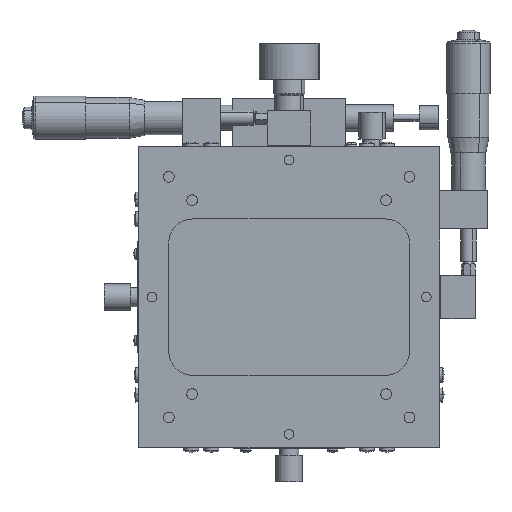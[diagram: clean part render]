
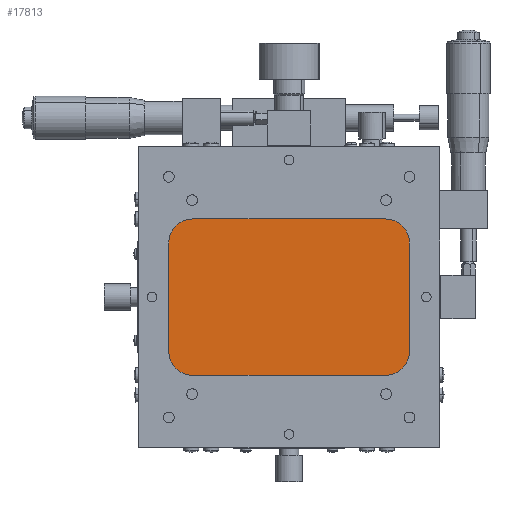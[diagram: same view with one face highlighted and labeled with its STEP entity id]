
A CAD part, front view. The second image highlights one B-rep face of the part: STEP entity #17813.
In plain terms, the highlighted planar face has unit normal (0, -1, 0).
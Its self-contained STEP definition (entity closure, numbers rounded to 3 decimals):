
#2496 = EDGE_LOOP ( 'NONE', ( #18721, #18723, #18724, #18725, #18726, #18727, #18728, #18729 ) ) ;
#7228 = CARTESIAN_POINT ( 'NONE',  ( -40., -6.75, 32.5 ) ) ;
#7229 = CARTESIAN_POINT ( 'NONE',  ( -50., -6.75, 22.5 ) ) ;
#7230 = CARTESIAN_POINT ( 'NONE',  ( -50., -6.75, -22.5 ) ) ;
#7231 = CARTESIAN_POINT ( 'NONE',  ( -40., -6.75, -32.5 ) ) ;
#7232 = CARTESIAN_POINT ( 'NONE',  ( 40., -6.75, -32.5 ) ) ;
#7239 = CARTESIAN_POINT ( 'NONE',  ( 40., -6.75, 32.5 ) ) ;
#7241 = CARTESIAN_POINT ( 'NONE',  ( 50., -6.75, -22.5 ) ) ;
#7243 = CARTESIAN_POINT ( 'NONE',  ( 50., -6.75, 22.5 ) ) ;
#9775 = CARTESIAN_POINT ( 'NONE',  ( 40., -6.75, 22.5 ) ) ;
#9786 = FACE_OUTER_BOUND ( 'NONE', #2496, .T. ) ;
#9787 = PLANE ( 'NONE',  #21819 ) ;
#9790 = DIRECTION ( 'NONE',  ( 0., -1., 0. ) ) ;
#9791 = DIRECTION ( 'NONE',  ( 0., 0., -1. ) ) ;
#15085 = EDGE_CURVE ( 'NONE', #20715, #20704, #25202, .T. ) ;
#15087 = EDGE_CURVE ( 'NONE', #20704, #20705, #17149, .T. ) ;
#15089 = EDGE_CURVE ( 'NONE', #20705, #20706, #25211, .T. ) ;
#15091 = EDGE_CURVE ( 'NONE', #20706, #20707, #17145, .T. ) ;
#15093 = EDGE_CURVE ( 'NONE', #20707, #20708, #25223, .T. ) ;
#15095 = EDGE_CURVE ( 'NONE', #20708, #20717, #17140, .T. ) ;
#15097 = EDGE_CURVE ( 'NONE', #20717, #20719, #25235, .T. ) ;
#15099 = EDGE_CURVE ( 'NONE', #20719, #20715, #17135, .T. ) ;
#17131 = AXIS2_PLACEMENT_3D ( 'NONE', #25249, #25250, #25251 ) ;
#17135 = CIRCLE ( 'NONE', #17131, 10. ) ;
#17136 = AXIS2_PLACEMENT_3D ( 'NONE', #25236, #25237, #25238 ) ;
#17138 = VECTOR ( 'NONE', #25242, 1000. ) ;
#17140 = CIRCLE ( 'NONE', #17136, 10. ) ;
#17141 = AXIS2_PLACEMENT_3D ( 'NONE', #25224, #25225, #25226 ) ;
#17143 = VECTOR ( 'NONE', #25230, 1000. ) ;
#17145 = CIRCLE ( 'NONE', #17141, 10. ) ;
#17146 = AXIS2_PLACEMENT_3D ( 'NONE', #25212, #25213, #25214 ) ;
#17148 = VECTOR ( 'NONE', #25218, 1000. ) ;
#17149 = CIRCLE ( 'NONE', #17146, 10. ) ;
#17153 = VECTOR ( 'NONE', #25207, 1000. ) ;
#17813 = ADVANCED_FACE ( 'NONE', ( #9786 ), #9787, .T. ) ;
#18721 = ORIENTED_EDGE ( 'NONE', *, *, #15099, .T. ) ;
#18723 = ORIENTED_EDGE ( 'NONE', *, *, #15085, .T. ) ;
#18724 = ORIENTED_EDGE ( 'NONE', *, *, #15087, .T. ) ;
#18725 = ORIENTED_EDGE ( 'NONE', *, *, #15089, .T. ) ;
#18726 = ORIENTED_EDGE ( 'NONE', *, *, #15091, .T. ) ;
#18727 = ORIENTED_EDGE ( 'NONE', *, *, #15093, .T. ) ;
#18728 = ORIENTED_EDGE ( 'NONE', *, *, #15095, .T. ) ;
#18729 = ORIENTED_EDGE ( 'NONE', *, *, #15097, .T. ) ;
#20704 = VERTEX_POINT ( 'NONE', #7228 ) ;
#20705 = VERTEX_POINT ( 'NONE', #7229 ) ;
#20706 = VERTEX_POINT ( 'NONE', #7230 ) ;
#20707 = VERTEX_POINT ( 'NONE', #7231 ) ;
#20708 = VERTEX_POINT ( 'NONE', #7232 ) ;
#20715 = VERTEX_POINT ( 'NONE', #7239 ) ;
#20717 = VERTEX_POINT ( 'NONE', #7241 ) ;
#20719 = VERTEX_POINT ( 'NONE', #7243 ) ;
#21819 = AXIS2_PLACEMENT_3D ( 'NONE', #9775, #9790, #9791 ) ;
#25173 = CARTESIAN_POINT ( 'NONE',  ( 40., -6.75, 32.5 ) ) ;
#25202 = LINE ( 'NONE', #25173, #17153 ) ;
#25207 = DIRECTION ( 'NONE',  ( -1., 0., 0. ) ) ;
#25211 = LINE ( 'NONE', #25217, #17148 ) ;
#25212 = CARTESIAN_POINT ( 'NONE',  ( -40., -6.75, 22.5 ) ) ;
#25213 = DIRECTION ( 'NONE',  ( 0., -1., 0. ) ) ;
#25214 = DIRECTION ( 'NONE',  ( 0., 0., -1. ) ) ;
#25217 = CARTESIAN_POINT ( 'NONE',  ( -50., -6.75, -22.5 ) ) ;
#25218 = DIRECTION ( 'NONE',  ( 0., 0., -1. ) ) ;
#25223 = LINE ( 'NONE', #25229, #17143 ) ;
#25224 = CARTESIAN_POINT ( 'NONE',  ( -40., -6.75, -22.5 ) ) ;
#25225 = DIRECTION ( 'NONE',  ( 0., -1., 0. ) ) ;
#25226 = DIRECTION ( 'NONE',  ( 0., 0., 1. ) ) ;
#25229 = CARTESIAN_POINT ( 'NONE',  ( 40., -6.75, -32.5 ) ) ;
#25230 = DIRECTION ( 'NONE',  ( 1., 0., 0. ) ) ;
#25235 = LINE ( 'NONE', #25241, #17138 ) ;
#25236 = CARTESIAN_POINT ( 'NONE',  ( 40., -6.75, -22.5 ) ) ;
#25237 = DIRECTION ( 'NONE',  ( 0., -1., 0. ) ) ;
#25238 = DIRECTION ( 'NONE',  ( 0., 0., -1. ) ) ;
#25241 = CARTESIAN_POINT ( 'NONE',  ( 50., -6.75, -22.5 ) ) ;
#25242 = DIRECTION ( 'NONE',  ( 0., 0., 1. ) ) ;
#25249 = CARTESIAN_POINT ( 'NONE',  ( 40., -6.75, 22.5 ) ) ;
#25250 = DIRECTION ( 'NONE',  ( 0., -1., 0. ) ) ;
#25251 = DIRECTION ( 'NONE',  ( 0., 0., -1. ) ) ;
